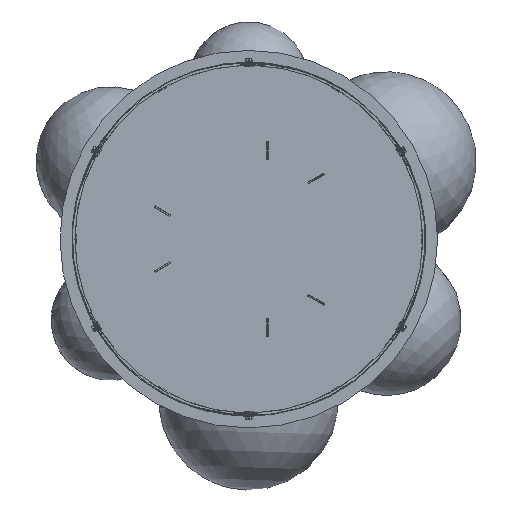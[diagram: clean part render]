
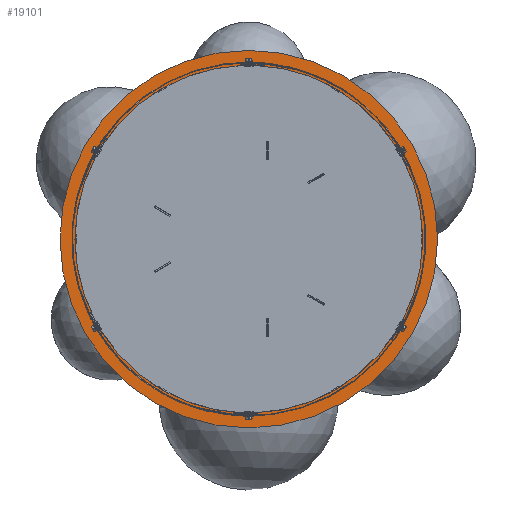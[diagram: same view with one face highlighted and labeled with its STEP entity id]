
A CAD part, top view. The second image highlights one B-rep face of the part: STEP entity #19101.
In plain terms, the highlighted planar face has unit normal (0, 0, 1).
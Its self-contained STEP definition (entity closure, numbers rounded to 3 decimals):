
#3730=FACE_OUTER_BOUND('',#4943,.T.);
#4943=EDGE_LOOP('',(#11758));
#6221=CIRCLE('',#20426,315.);
#7322=VERTEX_POINT('',#28911);
#9048=EDGE_CURVE('',#7322,#7322,#6221,.T.);
#11758=ORIENTED_EDGE('',*,*,#9048,.T.);
#17178=PLANE('',#20425);
#19101=ADVANCED_FACE('',(#3730),#17178,.T.);
#20425=AXIS2_PLACEMENT_3D('',#28910,#22790,#22791);
#20426=AXIS2_PLACEMENT_3D('',#28912,#22792,#22793);
#22790=DIRECTION('center_axis',(0.,0.,1.));
#22791=DIRECTION('ref_axis',(1.,0.,0.));
#22792=DIRECTION('center_axis',(0.,0.,1.));
#22793=DIRECTION('ref_axis',(-1.,0.,0.));
#28910=CARTESIAN_POINT('Origin',(0.,0.,
1.5));
#28911=CARTESIAN_POINT('',(315.,0.,1.5));
#28912=CARTESIAN_POINT('Origin',(0.,0.,1.5));
